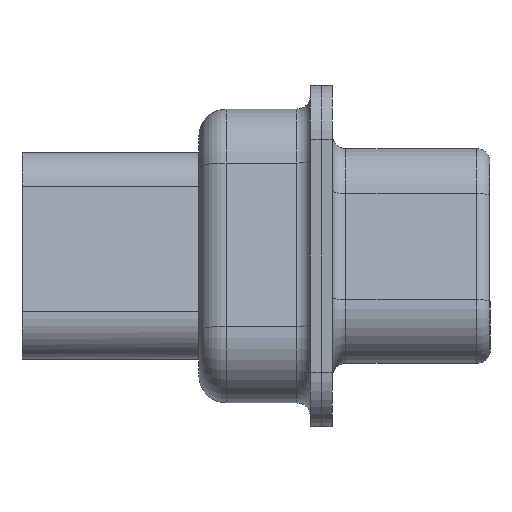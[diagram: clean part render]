
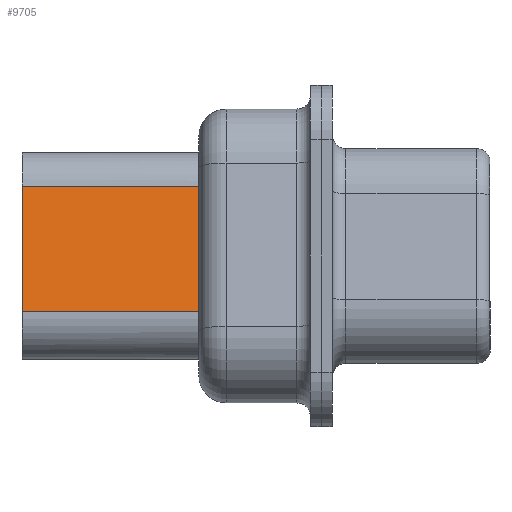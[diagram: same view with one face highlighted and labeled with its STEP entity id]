
A CAD part, left-side view. The second image highlights one B-rep face of the part: STEP entity #9705.
In plain terms, the highlighted planar face has unit normal (-0.985, 0, 0.174).
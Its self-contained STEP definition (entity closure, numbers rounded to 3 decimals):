
#224 = EDGE_CURVE ( 'NONE', #10477, #2007, #11894, .T. ) ;
#447 = CARTESIAN_POINT ( 'NONE',  ( -7.902, 4.14, -2.04 ) ) ;
#479 = EDGE_CURVE ( 'NONE', #2007, #8809, #912, .T. ) ;
#912 = LINE ( 'NONE', #13744, #15061 ) ;
#971 = CARTESIAN_POINT ( 'NONE',  ( -7.091, 4.14, 2.56 ) ) ;
#1734 = CARTESIAN_POINT ( 'NONE',  ( -7.902, 4.14, -2.04 ) ) ;
#1797 = ORIENTED_EDGE ( 'NONE', *, *, #10949, .F. ) ;
#2007 = VERTEX_POINT ( 'NONE', #971 ) ;
#2532 = CARTESIAN_POINT ( 'NONE',  ( -7.902, 4.14, -2.04 ) ) ;
#3029 = DIRECTION ( 'NONE',  ( 0.174, 0., 0.985 ) ) ;
#3183 = VERTEX_POINT ( 'NONE', #6220 ) ;
#3841 = EDGE_LOOP ( 'NONE', ( #11508, #4273, #9543, #1797 ) ) ;
#4273 = ORIENTED_EDGE ( 'NONE', *, *, #224, .T. ) ;
#5507 = CARTESIAN_POINT ( 'NONE',  ( -7.091, 11., 2.56 ) ) ;
#5983 = DIRECTION ( 'NONE',  ( 0.174, 0., 0.985 ) ) ;
#6220 = CARTESIAN_POINT ( 'NONE',  ( -7.902, 11., -2.04 ) ) ;
#8809 = VERTEX_POINT ( 'NONE', #5507 ) ;
#9543 = ORIENTED_EDGE ( 'NONE', *, *, #479, .T. ) ;
#9705 = ADVANCED_FACE ( 'NONE', ( #11043 ), #11126, .T. ) ;
#10020 = VECTOR ( 'NONE', #3029, 1000. ) ;
#10477 = VERTEX_POINT ( 'NONE', #2532 ) ;
#10649 = CARTESIAN_POINT ( 'NONE',  ( -7.902, 4.14, -2.04 ) ) ;
#10673 = DIRECTION ( 'NONE',  ( 0., 1., 0. ) ) ;
#10926 = VECTOR ( 'NONE', #14855, 1000. ) ;
#10949 = EDGE_CURVE ( 'NONE', #3183, #8809, #13677, .T. ) ;
#11043 = FACE_OUTER_BOUND ( 'NONE', #3841, .T. ) ;
#11126 = PLANE ( 'NONE',  #12258 ) ;
#11508 = ORIENTED_EDGE ( 'NONE', *, *, #14340, .F. ) ;
#11894 = LINE ( 'NONE', #10649, #14060 ) ;
#12258 = AXIS2_PLACEMENT_3D ( 'NONE', #447, #13452, #10673 ) ;
#12689 = LINE ( 'NONE', #1734, #10926 ) ;
#13452 = DIRECTION ( 'NONE',  ( -0.985, 0., 0.174 ) ) ;
#13677 = LINE ( 'NONE', #13832, #10020 ) ;
#13744 = CARTESIAN_POINT ( 'NONE',  ( -7.091, 4.14, 2.56 ) ) ;
#13832 = CARTESIAN_POINT ( 'NONE',  ( -7.902, 11., -2.04 ) ) ;
#14060 = VECTOR ( 'NONE', #5983, 1000. ) ;
#14340 = EDGE_CURVE ( 'NONE', #10477, #3183, #12689, .T. ) ;
#14855 = DIRECTION ( 'NONE',  ( 0., 1., 0. ) ) ;
#15061 = VECTOR ( 'NONE', #15131, 1000. ) ;
#15131 = DIRECTION ( 'NONE',  ( 0., 1., 0. ) ) ;
